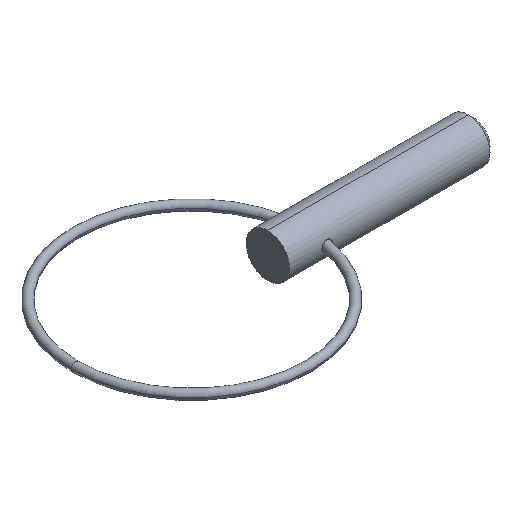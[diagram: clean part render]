
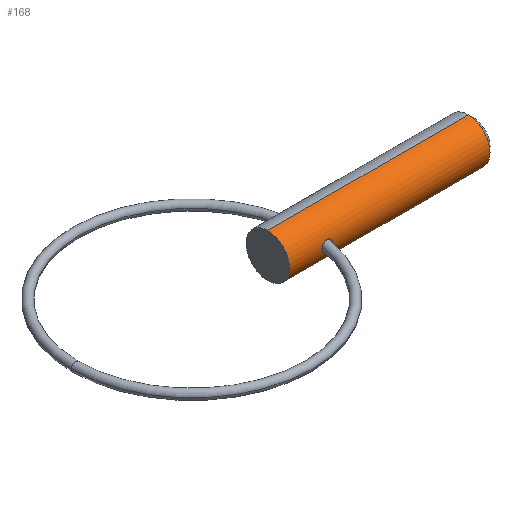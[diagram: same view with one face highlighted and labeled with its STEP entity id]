
A CAD part, isometric view. The second image highlights one B-rep face of the part: STEP entity #168.
In plain terms, the highlighted cylindrical face has radius 2.38 mm (diameter 4.76 mm), a partial arc.
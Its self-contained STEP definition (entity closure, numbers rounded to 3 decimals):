
#15 = CARTESIAN_POINT ( 'NONE',  ( 0., 0., 0. ) ) ;
#23 = DIRECTION ( 'NONE',  ( 0., 0., -1. ) ) ;
#28 = LINE ( 'NONE', #328, #754 ) ;
#65 = CARTESIAN_POINT ( 'NONE',  ( 4.75, -2.38, 0. ) ) ;
#69 = CARTESIAN_POINT ( 'NONE',  ( 4.307, -2.304, -0.597 ) ) ;
#73 = CARTESIAN_POINT ( 'NONE',  ( 3.538, -2.38, -0.159 ) ) ;
#90 = CARTESIAN_POINT ( 'NONE',  ( 3.538, -2.38, 0. ) ) ;
#96 = VERTEX_POINT ( 'NONE', #508 ) ;
#98 = LINE ( 'NONE', #171, #514 ) ;
#115 = B_SPLINE_CURVE_WITH_KNOTS ( 'NONE', 3,
 ( #451, #758, #150, #367, #179, #119, #784, #306, #614, #618 ),
 .UNSPECIFIED., .F., .F.,
 ( 4, 2, 2, 2, 4 ),
 ( 0., 0.001, 0.001, 0.002, 0.002 ),
 .UNSPECIFIED. ) ;
#119 = CARTESIAN_POINT ( 'NONE',  ( 4.307, -2.304, 0.597 ) ) ;
#131 = CARTESIAN_POINT ( 'NONE',  ( 21.935, 0., -2.38 ) ) ;
#137 = EDGE_CURVE ( 'NONE', #96, #463, #28, .T. ) ;
#147 = CIRCLE ( 'NONE', #711, 2.38 ) ;
#150 = CARTESIAN_POINT ( 'NONE',  ( 3.61, -2.362, 0.313 ) ) ;
#168 = ADVANCED_FACE ( 'NONE', ( #326, #283 ), #567, .T. ) ;
#171 = CARTESIAN_POINT ( 'NONE',  ( 0., 0., -2.38 ) ) ;
#179 = CARTESIAN_POINT ( 'NONE',  ( 3.991, -2.305, 0.592 ) ) ;
#193 = CARTESIAN_POINT ( 'NONE',  ( 4.75, -2.38, 0. ) ) ;
#203 = EDGE_CURVE ( 'NONE', #96, #316, #147, .T. ) ;
#222 = EDGE_LOOP ( 'NONE', ( #594, #549, #703, #616 ) ) ;
#229 = EDGE_CURVE ( 'NONE', #531, #249, #115, .T. ) ;
#240 = CARTESIAN_POINT ( 'NONE',  ( 4.75, -2.38, -0.157 ) ) ;
#249 = VERTEX_POINT ( 'NONE', #193 ) ;
#255 = EDGE_CURVE ( 'NONE', #249, #531, #407, .T. ) ;
#267 = DIRECTION ( 'NONE',  ( 1., 0., 0. ) ) ;
#283 = FACE_BOUND ( 'NONE', #498, .T. ) ;
#306 = CARTESIAN_POINT ( 'NONE',  ( 4.687, -2.362, 0.314 ) ) ;
#309 = CARTESIAN_POINT ( 'NONE',  ( 3.992, -2.305, -0.592 ) ) ;
#314 = CARTESIAN_POINT ( 'NONE',  ( 4.464, -2.322, -0.536 ) ) ;
#316 = VERTEX_POINT ( 'NONE', #492 ) ;
#321 = ORIENTED_EDGE ( 'NONE', *, *, #229, .T. ) ;
#326 = FACE_OUTER_BOUND ( 'NONE', #222, .T. ) ;
#327 = DIRECTION ( 'NONE',  ( 1., 0., 0. ) ) ;
#328 = CARTESIAN_POINT ( 'NONE',  ( 0., 0., 2.38 ) ) ;
#353 = DIRECTION ( 'NONE',  ( 1., 0., 0. ) ) ;
#367 = CARTESIAN_POINT ( 'NONE',  ( 3.836, -2.323, 0.528 ) ) ;
#384 = CARTESIAN_POINT ( 'NONE',  ( 21.935, 0., 0. ) ) ;
#405 = VERTEX_POINT ( 'NONE', #131 ) ;
#407 = B_SPLINE_CURVE_WITH_KNOTS ( 'NONE', 3,
 ( #65, #240, #542, #314, #69, #309, #675, #729, #73, #547 ),
 .UNSPECIFIED., .F., .F.,
 ( 4, 2, 2, 2, 4 ),
 ( 0.002, 0.003, 0.003, 0.004, 0.004 ),
 .UNSPECIFIED. ) ;
#441 = CARTESIAN_POINT ( 'NONE',  ( 21.935, 0., 2.38 ) ) ;
#443 = DIRECTION ( 'NONE',  ( 1., 0., 0. ) ) ;
#451 = CARTESIAN_POINT ( 'NONE',  ( 3.538, -2.38, 0. ) ) ;
#463 = VERTEX_POINT ( 'NONE', #441 ) ;
#492 = CARTESIAN_POINT ( 'NONE',  ( 0., 0., -2.38 ) ) ;
#498 = EDGE_LOOP ( 'NONE', ( #321, #790 ) ) ;
#508 = CARTESIAN_POINT ( 'NONE',  ( 0., 0., 2.38 ) ) ;
#514 = VECTOR ( 'NONE', #353, 1000. ) ;
#520 = DIRECTION ( 'NONE',  ( 0., 0., -1. ) ) ;
#531 = VERTEX_POINT ( 'NONE', #90 ) ;
#538 = AXIS2_PLACEMENT_3D ( 'NONE', #384, #327, #570 ) ;
#542 = CARTESIAN_POINT ( 'NONE',  ( 4.687, -2.362, -0.314 ) ) ;
#547 = CARTESIAN_POINT ( 'NONE',  ( 3.538, -2.38, 0. ) ) ;
#549 = ORIENTED_EDGE ( 'NONE', *, *, #203, .T. ) ;
#567 = CYLINDRICAL_SURFACE ( 'NONE', #681, 2.38 ) ;
#570 = DIRECTION ( 'NONE',  ( 0., 0., -1. ) ) ;
#572 = EDGE_CURVE ( 'NONE', #463, #405, #768, .T. ) ;
#594 = ORIENTED_EDGE ( 'NONE', *, *, #137, .F. ) ;
#614 = CARTESIAN_POINT ( 'NONE',  ( 4.75, -2.38, 0.157 ) ) ;
#616 = ORIENTED_EDGE ( 'NONE', *, *, #572, .F. ) ;
#618 = CARTESIAN_POINT ( 'NONE',  ( 4.75, -2.38, 0. ) ) ;
#675 = CARTESIAN_POINT ( 'NONE',  ( 3.836, -2.323, -0.528 ) ) ;
#681 = AXIS2_PLACEMENT_3D ( 'NONE', #15, #267, #520 ) ;
#685 = DIRECTION ( 'NONE',  ( 1., 0., 0. ) ) ;
#703 = ORIENTED_EDGE ( 'NONE', *, *, #787, .T. ) ;
#711 = AXIS2_PLACEMENT_3D ( 'NONE', #748, #685, #23 ) ;
#729 = CARTESIAN_POINT ( 'NONE',  ( 3.61, -2.362, -0.312 ) ) ;
#748 = CARTESIAN_POINT ( 'NONE',  ( 0., 0., 0. ) ) ;
#754 = VECTOR ( 'NONE', #443, 1000. ) ;
#758 = CARTESIAN_POINT ( 'NONE',  ( 3.538, -2.38, 0.159 ) ) ;
#768 = CIRCLE ( 'NONE', #538, 2.38 ) ;
#784 = CARTESIAN_POINT ( 'NONE',  ( 4.465, -2.322, 0.535 ) ) ;
#787 = EDGE_CURVE ( 'NONE', #316, #405, #98, .T. ) ;
#790 = ORIENTED_EDGE ( 'NONE', *, *, #255, .T. ) ;
